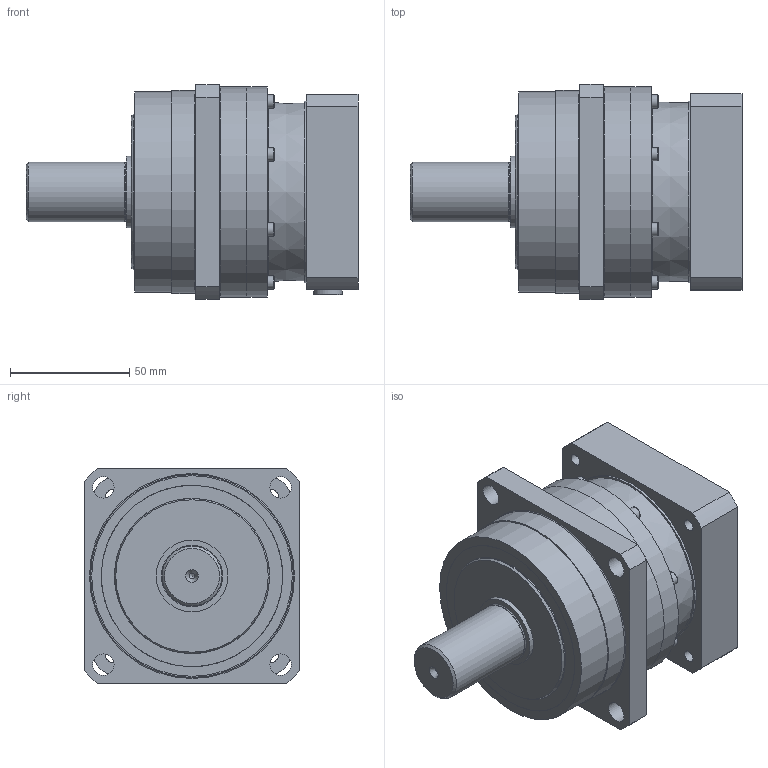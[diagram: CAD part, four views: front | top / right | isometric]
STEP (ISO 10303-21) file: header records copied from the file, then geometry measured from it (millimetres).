
FILE_DESCRIPTION(/* description */ ('ANFX-P120N-1-H20G'),/* implementation_level */ '2;1');
FILE_NAME(/* name */ 'C:\Users\ADMINI~1\AppData\Local\Temp\MM581965_ANFX-P120N-1-H20G.stp',/* time_stamp */ '2018-06-20T09:35:56+02:00',/* author */ ('Berger'),/* organization */ (''),/* preprocessor_version */ 'ST-DEVELOPER v17',/* originating_system */ 'Autodesk Inventor 2018',/* authorisation */ '');
FILE_SCHEMA (('AUTOMOTIVE_DESIGN { 1 0 10303 214 3 1 1 }'));
Length unit declared in the file: millimetre
Products named in the file (20): MM581710; MMBG0004078; MMCL445LG; MMCM226LG; MAX4840G; MAW8381G; MMBG0004105; MMCH509LG; M204639; M204639-1; M204639-2; M204639-3; M204639-4; M009M003R014NG; M530A30508---G; MMAP6499G; 009M004R012NG; 135392; M200410; MAW8386G
Assembly tree (45 placements, depth 4):
  MM581710
    MMBG0004078
      MMCL445LG
      MMCM226LG
      MAX4840G
      MAW8381G
    MMBG0004105
      MMCH509LG
      M204639
        M204639-1
        M204639-2
        M204639-3  x2
        M204639-4  x12
      M009M003R014NG  x8
      M530A30508---G
      MMAP6499G
      009M004R012NG
    135392
    M200410  x8
    MAW8386G
Bounding box: 139 x 90 x 90 mm (x, y, z)
Volume: 391968.3 mm3; surface area: 153154.5 mm2
Topology: 84 solids, 84 shells, 599 faces, 1666 edges, 1197 vertices
Faces by surface type: plane 251, cylinder 163, cone 76, torus 56, sphere 53
Full cylindrical faces by diameter (mm): 2 x1, 2.459 x10, 2.5 x1, 3 x8, 3.242 x1, 3.4 x8, 4 x1, 4.134 x8, 4.5 x1, 4.917 x4, 5 x8, 5.5 x16, 7 x1, 8.5 x8, 9 x4, 9.8 x1, 10 x9, 10.2 x1, 10.4 x1, 12 x1, 16.5 x1, 24 x1, 25 x1, 28 x1, 28.6 x1, 29 x1, 29.4 x1, 29.6 x1, 30 x3, 32 x1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
Entity records: 13288 total; most frequent: DIRECTION 2440, CARTESIAN_POINT 2271, ORIENTED_EDGE 1884, AXIS2_PLACEMENT_3D 1091, EDGE_CURVE 942, VERTEX_POINT 759, CIRCLE 657, EDGE_LOOP 517
